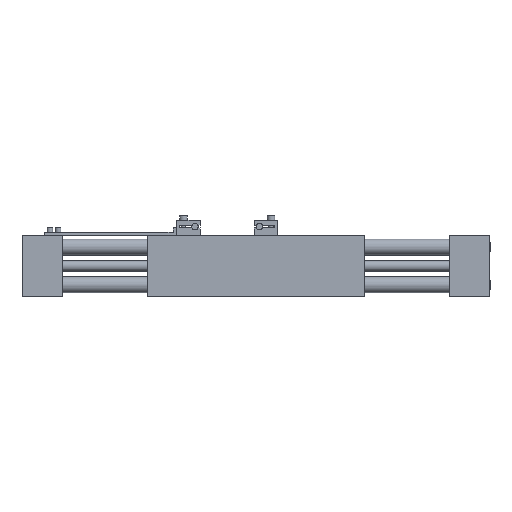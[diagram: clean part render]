
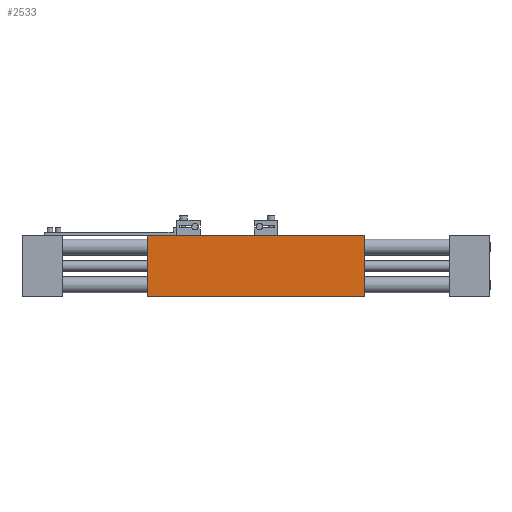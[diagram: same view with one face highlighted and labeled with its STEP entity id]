
A CAD part, front view. The second image highlights one B-rep face of the part: STEP entity #2533.
In plain terms, the highlighted planar face has unit normal (0, -1, 0).
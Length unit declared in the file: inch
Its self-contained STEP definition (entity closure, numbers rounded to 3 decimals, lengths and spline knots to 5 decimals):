
#2462 = VERTEX_POINT ( 'NONE', #4874 ) ;
#2465 = EDGE_CURVE ( 'NONE', #2527, #2462, #4933, .T. ) ;
#2468 = VERTEX_POINT ( 'NONE', #4866 ) ;
#2469 = VERTEX_POINT ( 'NONE', #4929 ) ;
#2510 = EDGE_CURVE ( 'NONE', #2462, #2469, #5008, .T. ) ;
#2512 = ORIENTED_EDGE ( 'NONE', *, *, #2510, .F. ) ;
#2515 = ORIENTED_EDGE ( 'NONE', *, *, #2465, .F. ) ;
#2517 = ORIENTED_EDGE ( 'NONE', *, *, #2526, .T. ) ;
#2526 = EDGE_CURVE ( 'NONE', #2527, #2468, #5045, .T. ) ;
#2527 = VERTEX_POINT ( 'NONE', #5033 ) ;
#2528 = EDGE_LOOP ( 'NONE', ( #2531, #2512, #2515, #2517 ) ) ;
#2531 = ORIENTED_EDGE ( 'NONE', *, *, #2532, .T. ) ;
#2532 = EDGE_CURVE ( 'NONE', #2468, #2469, #5019, .T. ) ;
#2533 = ADVANCED_FACE ( 'NONE', ( #5028 ), #5040, .F. ) ;
#4866 = CARTESIAN_POINT ( 'NONE',  ( -2.64, -1., -0.75 ) ) ;
#4874 = CARTESIAN_POINT ( 'NONE',  ( 2.64, -1., 0.75 ) ) ;
#4929 = CARTESIAN_POINT ( 'NONE',  ( 2.64, -1., -0.75 ) ) ;
#4930 = DIRECTION ( 'NONE',  ( 1., 0., 0. ) ) ;
#4931 = VECTOR ( 'NONE', #4930, 39.37008 ) ;
#4932 = CARTESIAN_POINT ( 'NONE',  ( -2.64, -1., 0.75 ) ) ;
#4933 = LINE ( 'NONE', #4932, #4931 ) ;
#4991 = DIRECTION ( 'NONE',  ( 0., 0., -1. ) ) ;
#4992 = VECTOR ( 'NONE', #4991, 39.37008 ) ;
#4993 = CARTESIAN_POINT ( 'NONE',  ( 2.64, -1., 0.75 ) ) ;
#5000 = DIRECTION ( 'NONE',  ( 0., 1., 0. ) ) ;
#5008 = LINE ( 'NONE', #4993, #4992 ) ;
#5012 = DIRECTION ( 'NONE',  ( 0., 0., 1. ) ) ;
#5016 = DIRECTION ( 'NONE',  ( 1., 0., 0. ) ) ;
#5017 = VECTOR ( 'NONE', #5016, 39.37008 ) ;
#5018 = CARTESIAN_POINT ( 'NONE',  ( -2.64, -1., -0.75 ) ) ;
#5019 = LINE ( 'NONE', #5018, #5017 ) ;
#5021 = AXIS2_PLACEMENT_3D ( 'NONE', #5032, #5000, #5012 ) ;
#5028 = FACE_OUTER_BOUND ( 'NONE', #2528, .T. ) ;
#5029 = DIRECTION ( 'NONE',  ( 0., 0., -1. ) ) ;
#5030 = VECTOR ( 'NONE', #5029, 39.37008 ) ;
#5032 = CARTESIAN_POINT ( 'NONE',  ( -2.64, -1., 0.75 ) ) ;
#5033 = CARTESIAN_POINT ( 'NONE',  ( -2.64, -1., 0.75 ) ) ;
#5040 = PLANE ( 'NONE',  #5021 ) ;
#5044 = CARTESIAN_POINT ( 'NONE',  ( -2.64, -1., 0.75 ) ) ;
#5045 = LINE ( 'NONE', #5044, #5030 ) ;
